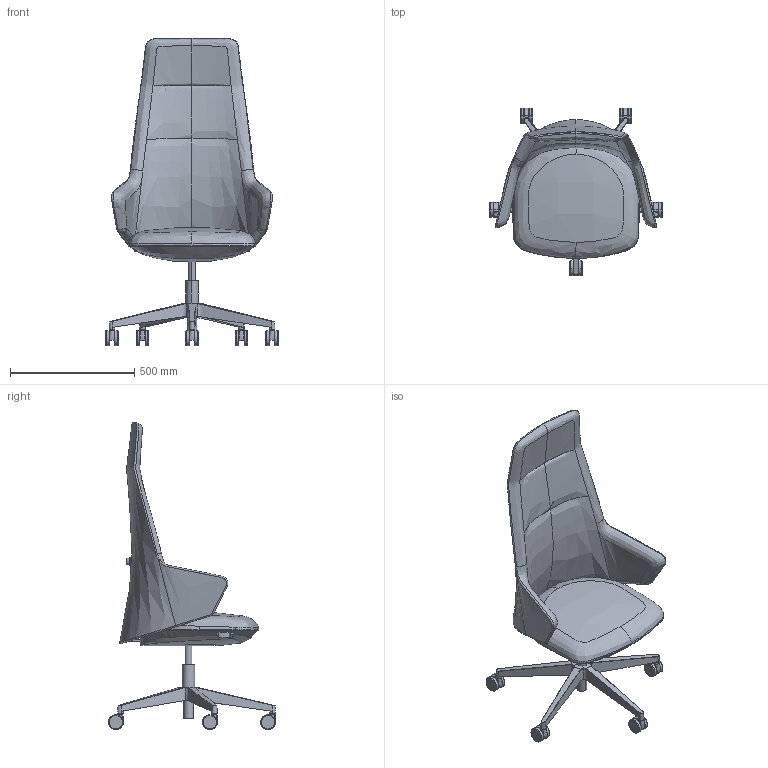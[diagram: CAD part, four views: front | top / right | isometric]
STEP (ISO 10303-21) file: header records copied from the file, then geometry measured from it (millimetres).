
FILE_DESCRIPTION(/* description */ (''),/* implementation_level */ '2;1');
FILE_NAME(/* name */ 'MELODY DESIGN 796-FR',/* time_stamp */ '2022-10-25T23:09:50+02:00',/* author */ (''),/* organization */ (''),/* preprocessor_version */ 'ST-DEVELOPER v16.5',/* originating_system */ 'Rhino 7.23',/* authorisation */ '');
FILE_SCHEMA (('CONFIG_CONTROL_DESIGN'));
Length unit declared in the file: millimetre
Products named in the file (1): Document
Bounding box: 694.82 x 673.73 x 1237.62 mm (x, y, z)
Volume: 38860497.4 mm3; surface area: 2339735.5 mm2
Topology: 6 solids, 29 shells, 291 faces, 709 edges, 435 vertices
Faces by surface type: bspline 153, plane 97, cylinder 41
Entity records: 24687 total; most frequent: CARTESIAN_POINT 20351, ORIENTED_EDGE 1291, EDGE_CURVE 700, VERTEX_POINT 427, B_SPLINE_CURVE_WITH_KNOTS 384, EDGE_LOOP 293, ADVANCED_FACE 291, FACE_OUTER_BOUND 291
